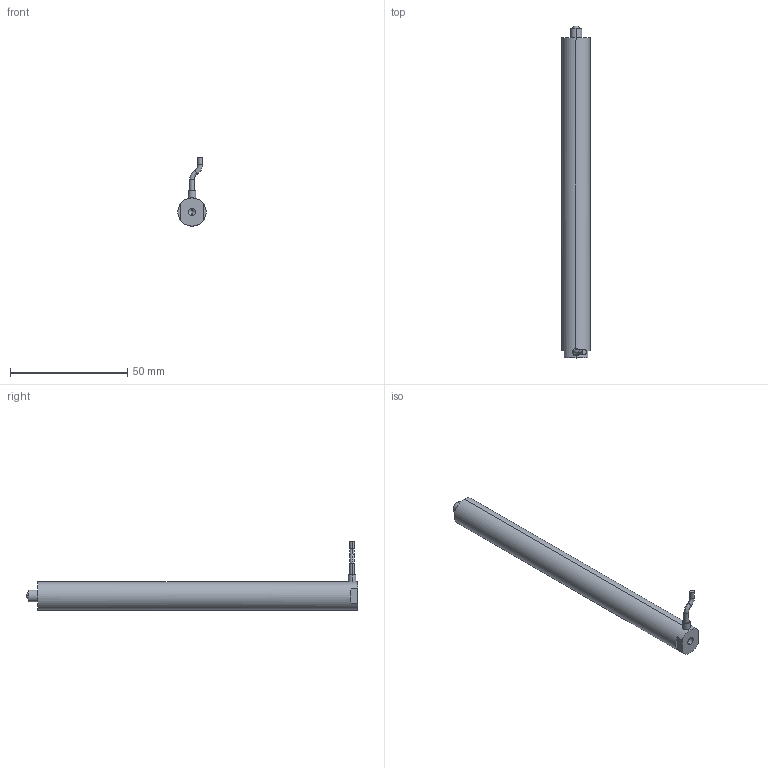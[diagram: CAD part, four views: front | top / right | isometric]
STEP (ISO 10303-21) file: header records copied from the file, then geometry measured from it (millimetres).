
FILE_DESCRIPTION (( 'STEP AP203' ), '1' );
FILE_NAME ('球头式140VS12.STEP', '2020-08-19T06:05:57', ( 'User' ), ( 'china' ), 'SwSTEP 2.0', 'SolidWorks 2016', '' );
FILE_SCHEMA (( 'CONFIG_CONTROL_DESIGN' ));
Products named in the file (1): ⑩芛宒140VS12
Bounding box: 12 x 141.6 x 29.08 mm (x, y, z)
Volume: 15522.2 mm3; surface area: 5635.8 mm2
Topology: 1 solids, 1 shells, 936 faces, 2514 edges, 1672 vertices
Faces by surface type: bspline 505, plane 321, cylinder 102, torus 4, sphere 2, cone 2
Entity records: 43241 total; most frequent: CARTESIAN_POINT 24230, ORIENTED_EDGE 5024, EDGE_CURVE 2512, DIRECTION 1996, VERTEX_POINT 1672, B_SPLINE_CURVE_WITH_KNOTS 1662, EDGE_LOOP 1030, FACE_OUTER_BOUND 936
